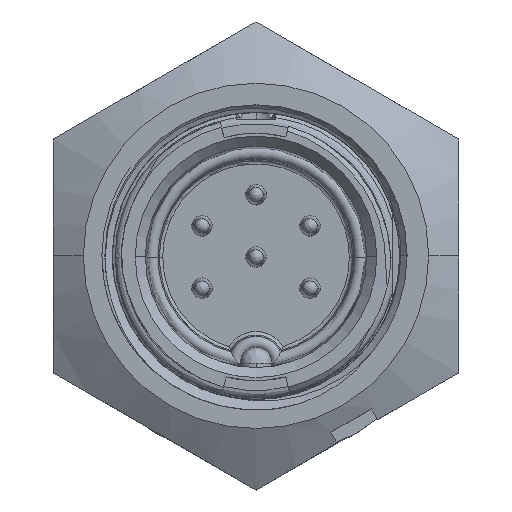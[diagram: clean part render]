
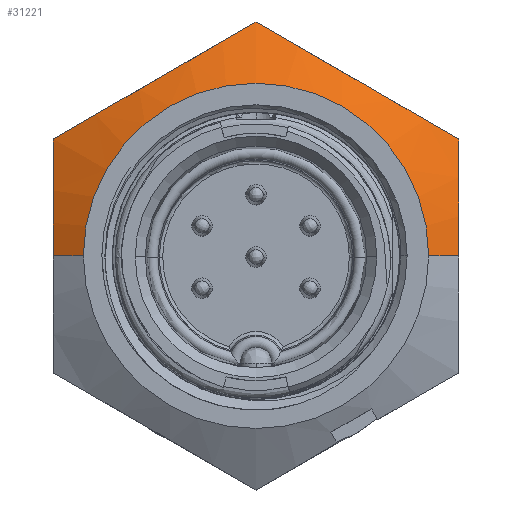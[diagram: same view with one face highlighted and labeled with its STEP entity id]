
A CAD part, top view. The second image highlights one B-rep face of the part: STEP entity #31221.
In plain terms, the highlighted conical face has half-angle 60 degrees and reference radius 11.934 mm.
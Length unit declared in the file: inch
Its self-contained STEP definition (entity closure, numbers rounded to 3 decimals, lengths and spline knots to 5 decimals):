
#719 = CARTESIAN_POINT ( 'NONE',  ( -0.34612, 0., 1.641 ) ) ;
#1396 = CARTESIAN_POINT ( 'NONE',  ( -0.40625, 0.15753, 1.5902 ) ) ;
#1398 = CARTESIAN_POINT ( 'NONE',  ( -0.40625, 0.19618, 1.58108 ) ) ;
#1428 = CARTESIAN_POINT ( 'NONE',  ( 0.40625, 0., 1.60628 ) ) ;
#1725 = ORIENTED_EDGE ( 'NONE', *, *, #26686, .F. ) ;
#3894 = ORIENTED_EDGE ( 'NONE', *, *, #27723, .T. ) ;
#4795 = CARTESIAN_POINT ( 'NONE',  ( -0.40625, 0.23455, 1.57 ) ) ;
#5783 = CARTESIAN_POINT ( 'NONE',  ( -0.40625, 0.03996, 1.60628 ) ) ;
#5786 = CARTESIAN_POINT ( 'NONE',  ( -0.40625, 0.07942, 1.60283 ) ) ;
#7433 = CARTESIAN_POINT ( 'NONE',  ( -0.40625, 0.23455, 1.57 ) ) ;
#7491 = VERTEX_POINT ( 'NONE', #7433 ) ;
#8265 = CARTESIAN_POINT ( 'NONE',  ( -0.40625, 0., 1.60628 ) ) ;
#9067 = LINE ( 'NONE', #16164, #9300 ) ;
#9073 = CARTESIAN_POINT ( 'NONE',  ( 0.40625, 0.23455, 1.57 ) ) ;
#9108 = CARTESIAN_POINT ( 'NONE',  ( 0.40625, 0.19628, 1.58105 ) ) ;
#9133 = CARTESIAN_POINT ( 'NONE',  ( -0.40625, 0., 1.60628 ) ) ;
#9138 = CARTESIAN_POINT ( 'NONE',  ( 0.40625, 0.15768, 1.59017 ) ) ;
#9148 = CARTESIAN_POINT ( 'NONE',  ( 0.40625, 0.0991, 1.59965 ) ) ;
#9179 = CARTESIAN_POINT ( 'NONE',  ( 0.40625, 0.07945, 1.60211 ) ) ;
#9218 = CARTESIAN_POINT ( 'NONE',  ( 0.40625, 0.0399, 1.60543 ) ) ;
#9221 = B_SPLINE_CURVE_WITH_KNOTS ( 'NONE', 3,
 ( #4795, #1398, #1396, #5786, #5783, #8265 ),
 .UNSPECIFIED., .F., .F.,
 ( 4, 2, 4 ),
 ( 0., 0.00301, 0.00603 ),
 .UNSPECIFIED. ) ;
#9300 = VECTOR ( 'NONE', #12087, 39.37008 ) ;
#9327 = CARTESIAN_POINT ( 'NONE',  ( 0.40625, 0.01991, 1.60628 ) ) ;
#10144 = VERTEX_POINT ( 'NONE', #22605 ) ;
#11443 = VECTOR ( 'NONE', #13159, 39.37008 ) ;
#11503 = LINE ( 'NONE', #13198, #11443 ) ;
#11715 = CIRCLE ( 'NONE', #33356, 0.34612 ) ;
#11970 = VERTEX_POINT ( 'NONE', #1428 ) ;
#12087 = DIRECTION ( 'NONE',  ( -0.866, 0., -0.5 ) ) ;
#12400 = DIRECTION ( 'NONE',  ( -1., 0., 0. ) ) ;
#12430 = DIRECTION ( 'NONE',  ( 0., 0., -1. ) ) ;
#12475 = CARTESIAN_POINT ( 'NONE',  ( 0., 0., 1.641 ) ) ;
#12586 = CARTESIAN_POINT ( 'NONE',  ( 0.40625, 0., 1.60628 ) ) ;
#13159 = DIRECTION ( 'NONE',  ( 0.866, 0., -0.5 ) ) ;
#13198 = CARTESIAN_POINT ( 'NONE',  ( 0.46983, 0., 1.56957 ) ) ;
#13214 = B_SPLINE_CURVE_WITH_KNOTS ( 'NONE', 3,
 ( #31122, #22353, #29366, #30057, #29647, #29972, #29691, #29722, #29727, #29896, #30968, #27066 ),
 .UNSPECIFIED., .F., .F.,
 ( 4, 2, 2, 2, 2, 4 ),
 ( 0., 0.00301, 0.00602, 0.00752, 0.00903, 0.01203 ),
 .UNSPECIFIED. ) ;
#14024 = VERTEX_POINT ( 'NONE', #14893 ) ;
#14893 = CARTESIAN_POINT ( 'NONE',  ( 0., 0.4691, 1.57 ) ) ;
#15912 = B_SPLINE_CURVE_WITH_KNOTS ( 'NONE', 3,
 ( #23967, #23925, #23808, #23780, #23768, #23738, #23729, #23696, #23665, #23652, #23619, #23610 ),
 .UNSPECIFIED., .F., .F.,
 ( 4, 2, 2, 2, 2, 4 ),
 ( 0., 0.00301, 0.00602, 0.00752, 0.00903, 0.01203 ),
 .UNSPECIFIED. ) ;
#16039 = ORIENTED_EDGE ( 'NONE', *, *, #27613, .T. ) ;
#16164 = CARTESIAN_POINT ( 'NONE',  ( -0.46983, 0., 1.56957 ) ) ;
#17051 = EDGE_LOOP ( 'NONE', ( #26613, #16039, #3894, #23535, #24668, #20181, #1725 ) ) ;
#20181 = ORIENTED_EDGE ( 'NONE', *, *, #26639, .T. ) ;
#20479 = CARTESIAN_POINT ( 'NONE',  ( 0.34612, 0., 1.641 ) ) ;
#22353 = CARTESIAN_POINT ( 'NONE',  ( 0.37308, 0.2537, 1.58106 ) ) ;
#22605 = CARTESIAN_POINT ( 'NONE',  ( 0.40625, 0.23455, 1.57 ) ) ;
#23004 = VERTEX_POINT ( 'NONE', #9133 ) ;
#23535 = ORIENTED_EDGE ( 'NONE', *, *, #26799, .T. ) ;
#23610 = CARTESIAN_POINT ( 'NONE',  ( -0.40625, 0.23455, 1.57 ) ) ;
#23619 = CARTESIAN_POINT ( 'NONE',  ( -0.37304, 0.25372, 1.58107 ) ) ;
#23652 = CARTESIAN_POINT ( 'NONE',  ( -0.33956, 0.27305, 1.5902 ) ) ;
#23665 = CARTESIAN_POINT ( 'NONE',  ( -0.28872, 0.3024, 1.59969 ) ) ;
#23696 = CARTESIAN_POINT ( 'NONE',  ( -0.27168, 0.31224, 1.60214 ) ) ;
#23729 = CARTESIAN_POINT ( 'NONE',  ( -0.23736, 0.33206, 1.60545 ) ) ;
#23738 = CARTESIAN_POINT ( 'NONE',  ( -0.22001, 0.34208, 1.6063 ) ) ;
#23768 = CARTESIAN_POINT ( 'NONE',  ( -0.1682, 0.37199, 1.60626 ) ) ;
#23780 = CARTESIAN_POINT ( 'NONE',  ( -0.13409, 0.39168, 1.60279 ) ) ;
#23808 = CARTESIAN_POINT ( 'NONE',  ( -0.06657, 0.43066, 1.59017 ) ) ;
#23925 = CARTESIAN_POINT ( 'NONE',  ( -0.03317, 0.44995, 1.58106 ) ) ;
#23967 = CARTESIAN_POINT ( 'NONE',  ( 0., 0.4691, 1.57 ) ) ;
#24060 = VERTEX_POINT ( 'NONE', #20479 ) ;
#24668 = ORIENTED_EDGE ( 'NONE', *, *, #27148, .T. ) ;
#26137 = AXIS2_PLACEMENT_3D ( 'NONE', #30575, #30854, #30544 ) ;
#26309 = B_SPLINE_CURVE_WITH_KNOTS ( 'NONE', 3,
 ( #12586, #9327, #9218, #9179, #9148, #9138, #9108, #9073 ),
 .UNSPECIFIED., .F., .F.,
 ( 4, 2, 2, 4 ),
 ( 0.00603, 0.00753, 0.00903, 0.01203 ),
 .UNSPECIFIED. ) ;
#26558 = VERTEX_POINT ( 'NONE', #719 ) ;
#26613 = ORIENTED_EDGE ( 'NONE', *, *, #27671, .T. ) ;
#26639 = EDGE_CURVE ( 'NONE', #7491, #23004, #9221, .T. ) ;
#26686 = EDGE_CURVE ( 'NONE', #26558, #23004, #9067, .T. ) ;
#26799 = EDGE_CURVE ( 'NONE', #10144, #14024, #13214, .T. ) ;
#27066 = CARTESIAN_POINT ( 'NONE',  ( 0., 0.4691, 1.57 ) ) ;
#27148 = EDGE_CURVE ( 'NONE', #14024, #7491, #15912, .T. ) ;
#27613 = EDGE_CURVE ( 'NONE', #24060, #11970, #11503, .T. ) ;
#27638 = FACE_OUTER_BOUND ( 'NONE', #17051, .T. ) ;
#27671 = EDGE_CURVE ( 'NONE', #26558, #24060, #11715, .T. ) ;
#27723 = EDGE_CURVE ( 'NONE', #11970, #10144, #26309, .T. ) ;
#28723 = CONICAL_SURFACE ( 'NONE', #26137, 0.46983, 1.047 ) ;
#29366 = CARTESIAN_POINT ( 'NONE',  ( 0.33968, 0.27299, 1.59017 ) ) ;
#29647 = CARTESIAN_POINT ( 'NONE',  ( 0.23805, 0.33166, 1.60626 ) ) ;
#29691 = CARTESIAN_POINT ( 'NONE',  ( 0.16889, 0.37159, 1.60545 ) ) ;
#29722 = CARTESIAN_POINT ( 'NONE',  ( 0.13457, 0.3914, 1.60214 ) ) ;
#29727 = CARTESIAN_POINT ( 'NONE',  ( 0.11753, 0.40124, 1.59969 ) ) ;
#29896 = CARTESIAN_POINT ( 'NONE',  ( 0.06669, 0.43059, 1.5902 ) ) ;
#29972 = CARTESIAN_POINT ( 'NONE',  ( 0.18624, 0.36157, 1.6063 ) ) ;
#30057 = CARTESIAN_POINT ( 'NONE',  ( 0.27216, 0.31196, 1.60279 ) ) ;
#30544 = DIRECTION ( 'NONE',  ( -1., 0., 0. ) ) ;
#30575 = CARTESIAN_POINT ( 'NONE',  ( 0., 0., 1.56957 ) ) ;
#30854 = DIRECTION ( 'NONE',  ( 0., 0., -1. ) ) ;
#30968 = CARTESIAN_POINT ( 'NONE',  ( 0.03321, 0.44992, 1.58107 ) ) ;
#31122 = CARTESIAN_POINT ( 'NONE',  ( 0.40625, 0.23455, 1.57 ) ) ;
#31221 = ADVANCED_FACE ( 'NONE', ( #27638 ), #28723, .T. ) ;
#33356 = AXIS2_PLACEMENT_3D ( 'NONE', #12475, #12430, #12400 ) ;
